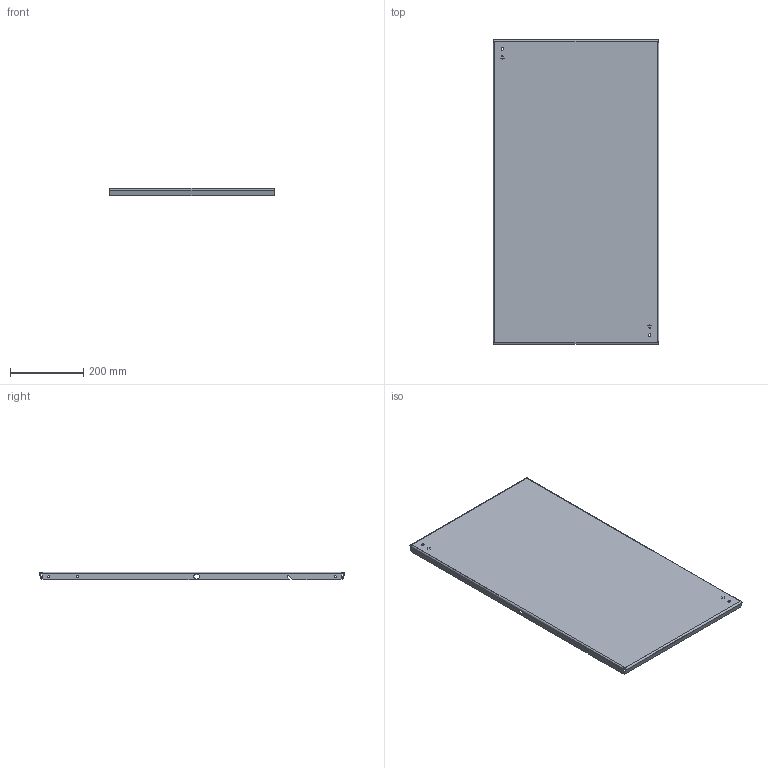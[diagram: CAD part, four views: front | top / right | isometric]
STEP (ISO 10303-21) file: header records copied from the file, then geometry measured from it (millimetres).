
FILE_DESCRIPTION (( 'STEP AP203' ), '1' );
FILE_NAME ('p2ppsm96.STEP', '2016-06-09T18:33:48', ( '' ), ( '' ), 'SwSTEP 2.0', 'SolidWorks 2014', '' );
FILE_SCHEMA (( 'CONFIG_CONTROL_DESIGN' ));
Length unit declared in the file: millimetre
Products named in the file (2): p2ppsm96; 89140614_DEFAULT
Assembly tree (1 placements, depth 2):
  p2ppsm96
    89140614_DEFAULT
Bounding box: 453 x 832.98 x 20.9 mm (x, y, z)
Volume: 1034105.2 mm3; surface area: 846843.5 mm2
Topology: 1 solids, 1 shells, 127 faces, 329 edges, 210 vertices
Faces by surface type: plane 96, cylinder 31
Entity records: 4061 total; most frequent: CARTESIAN_POINT 670, ORIENTED_EDGE 658, DIRECTION 657, EDGE_CURVE 329, VECTOR 263, LINE 263, VERTEX_POINT 210, AXIS2_PLACEMENT_3D 197
